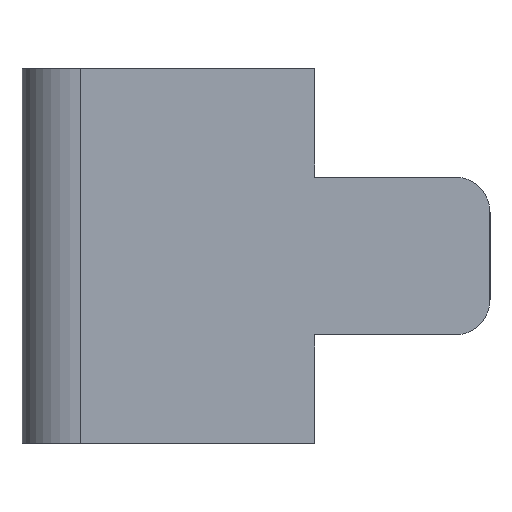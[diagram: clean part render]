
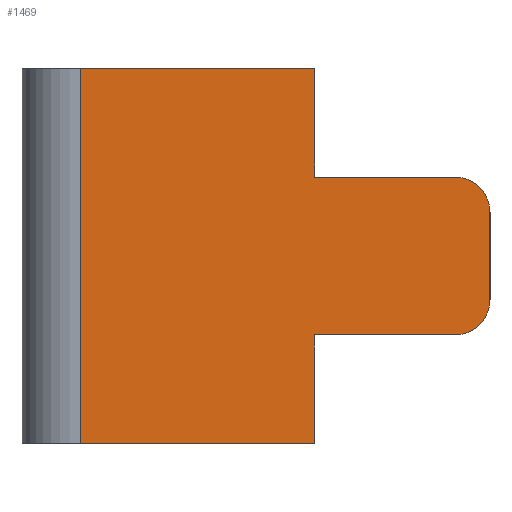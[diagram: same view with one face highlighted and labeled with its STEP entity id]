
A CAD part, left-side view. The second image highlights one B-rep face of the part: STEP entity #1469.
In plain terms, the highlighted planar face has unit normal (-1, 0, 0).
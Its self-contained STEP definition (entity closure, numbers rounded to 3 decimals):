
#262=DIRECTION('',(0.,0.,-1.));
#263=VECTOR('',#262,6.4);
#264=CARTESIAN_POINT('',(-5.,0.,-57.57));
#265=LINE('',#264,#263);
#270=CARTESIAN_POINT('',(-5.,-6.4,-60.02));
#271=DIRECTION('',(1.,0.,0.));
#272=DIRECTION('',(0.,0.,1.));
#273=AXIS2_PLACEMENT_3D('',#270,#271,#272);
#275=DIRECTION('',(0.,0.,-1.));
#276=VECTOR('',#275,1.5);
#277=CARTESIAN_POINT('',(-5.,-7.,-60.02));
#278=LINE('',#277,#276);
#279=CARTESIAN_POINT('',(-5.,-6.4,-61.52));
#280=DIRECTION('',(1.,0.,0.));
#281=DIRECTION('',(0.,-1.,0.));
#282=AXIS2_PLACEMENT_3D('',#279,#280,#281);
#284=DIRECTION('',(0.,0.,-1.));
#285=VECTOR('',#284,1.85);
#286=CARTESIAN_POINT('',(-5.,-4.,-62.12));
#287=LINE('',#286,#285);
#288=DIRECTION('',(0.,1.,0.));
#289=VECTOR('',#288,4.);
#290=CARTESIAN_POINT('',(-5.,-4.,-63.97));
#291=LINE('',#290,#289);
#292=DIRECTION('',(0.,-1.,0.));
#293=VECTOR('',#292,4.);
#294=CARTESIAN_POINT('',(-5.,0.,-57.57));
#295=LINE('',#294,#293);
#296=DIRECTION('',(0.,-1.,0.));
#297=VECTOR('',#296,2.4);
#298=CARTESIAN_POINT('',(-5.,-4.,-59.42));
#299=LINE('',#298,#297);
#320=DIRECTION('',(0.,-1.,0.));
#321=VECTOR('',#320,2.4);
#322=CARTESIAN_POINT('',(-5.,-4.,-62.12));
#323=LINE('',#322,#321);
#340=DIRECTION('',(0.,0.,1.));
#341=VECTOR('',#340,1.85);
#342=CARTESIAN_POINT('',(-5.,-4.,-59.42));
#343=LINE('',#342,#341);
#979=CARTESIAN_POINT('',(-5.,0.,-57.57));
#980=CARTESIAN_POINT('',(-5.,0.,-63.97));
#981=VERTEX_POINT('',#979);
#982=VERTEX_POINT('',#980);
#983=CARTESIAN_POINT('',(-5.,-6.4,-59.42));
#984=CARTESIAN_POINT('',(-5.,-7.,-60.02));
#985=VERTEX_POINT('',#983);
#986=VERTEX_POINT('',#984);
#987=CARTESIAN_POINT('',(-5.,-7.,-61.52));
#988=VERTEX_POINT('',#987);
#989=CARTESIAN_POINT('',(-5.,-6.4,-62.12));
#990=VERTEX_POINT('',#989);
#991=CARTESIAN_POINT('',(-5.,-4.,-62.12));
#992=VERTEX_POINT('',#991);
#993=CARTESIAN_POINT('',(-5.,-4.,-63.97));
#994=VERTEX_POINT('',#993);
#995=CARTESIAN_POINT('',(-5.,-4.,-57.57));
#996=VERTEX_POINT('',#995);
#997=CARTESIAN_POINT('',(-5.,-4.,-59.42));
#998=VERTEX_POINT('',#997);
#1445=CARTESIAN_POINT('',(-5.,1.,-63.97));
#1446=DIRECTION('',(-1.,0.,0.));
#1447=DIRECTION('',(0.,0.,-1.));
#1448=AXIS2_PLACEMENT_3D('',#1445,#1446,#1447);
#1449=PLANE('',#1448);
#1451=ORIENTED_EDGE('',*,*,#1450,.T.);
#1453=ORIENTED_EDGE('',*,*,#1452,.T.);
#1455=ORIENTED_EDGE('',*,*,#1454,.T.);
#1457=ORIENTED_EDGE('',*,*,#1456,.F.);
#1459=ORIENTED_EDGE('',*,*,#1458,.T.);
#1460=ORIENTED_EDGE('',*,*,#1186,.T.);
#1461=ORIENTED_EDGE('',*,*,#1435,.F.);
#1462=ORIENTED_EDGE('',*,*,#1256,.T.);
#1464=ORIENTED_EDGE('',*,*,#1463,.F.);
#1466=ORIENTED_EDGE('',*,*,#1465,.T.);
#1467=EDGE_LOOP('',(#1451,#1453,#1455,#1457,#1459,#1460,#1461,#1462,#1464,
#1466));
#1468=FACE_OUTER_BOUND('',#1467,.F.);
#1469=ADVANCED_FACE('',(#1468),#1449,.T.);
#274=CIRCLE('',#273,0.6);
#283=CIRCLE('',#282,0.6);
#1186=EDGE_CURVE('',#994,#982,#291,.T.);
#1256=EDGE_CURVE('',#981,#996,#295,.T.);
#1435=EDGE_CURVE('',#981,#982,#265,.T.);
#1450=EDGE_CURVE('',#985,#986,#274,.T.);
#1452=EDGE_CURVE('',#986,#988,#278,.T.);
#1454=EDGE_CURVE('',#988,#990,#283,.T.);
#1456=EDGE_CURVE('',#992,#990,#323,.T.);
#1458=EDGE_CURVE('',#992,#994,#287,.T.);
#1463=EDGE_CURVE('',#998,#996,#343,.T.);
#1465=EDGE_CURVE('',#998,#985,#299,.T.);
